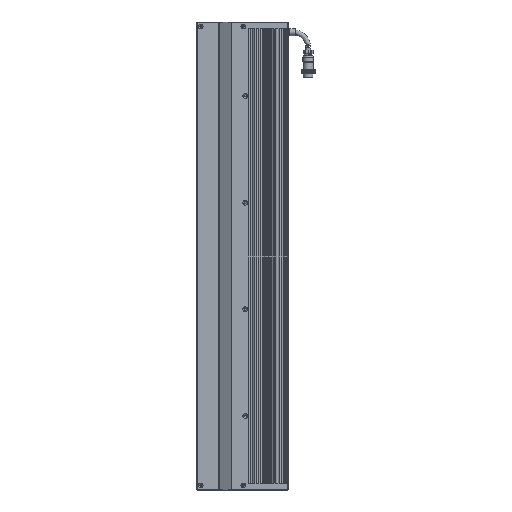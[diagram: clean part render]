
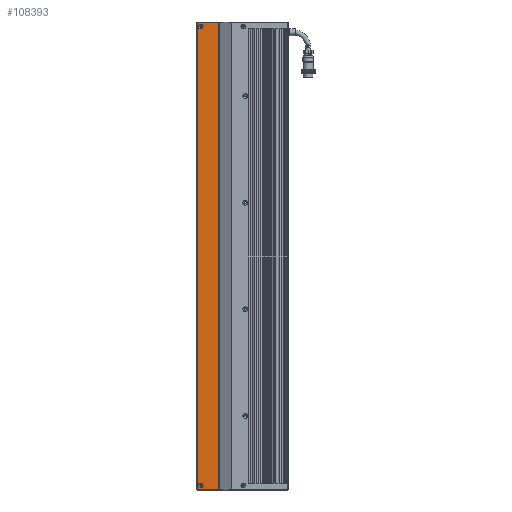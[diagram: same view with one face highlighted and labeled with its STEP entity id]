
A CAD part, left-side view. The second image highlights one B-rep face of the part: STEP entity #108393.
In plain terms, the highlighted planar face has unit normal (-1, 0, 0).
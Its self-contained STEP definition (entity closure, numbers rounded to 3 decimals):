
#5131 = EDGE_LOOP ( 'NONE', ( #10361 ) ) ;
#5657 = CARTESIAN_POINT ( 'NONE',  ( -15.462, 16.939, 727.5 ) ) ;
#6504 = DIRECTION ( 'NONE',  ( -1., 0., 0. ) ) ;
#7225 = CARTESIAN_POINT ( 'NONE',  ( -15.462, 13.789, 727.5 ) ) ;
#9946 = DIRECTION ( 'NONE',  ( 0., 0., -1. ) ) ;
#10361 = ORIENTED_EDGE ( 'NONE', *, *, #53114, .F. ) ;
#13353 = EDGE_LOOP ( 'NONE', ( #37569, #77928, #45549, #52624 ) ) ;
#14692 = VECTOR ( 'NONE', #25882, 1000. ) ;
#16178 = CIRCLE ( 'NONE', #119508, 3.15 ) ;
#16942 = EDGE_CURVE ( 'NONE', #93298, #97791, #60565, .T. ) ;
#17250 = AXIS2_PLACEMENT_3D ( 'NONE', #37304, #96392, #67426 ) ;
#24158 = CARTESIAN_POINT ( 'NONE',  ( -15.462, -7.561, 733. ) ) ;
#24848 = DIRECTION ( 'NONE',  ( 0., 0., -1. ) ) ;
#24903 = CARTESIAN_POINT ( 'NONE',  ( -15.462, -6.987, 120. ) ) ;
#25031 = VERTEX_POINT ( 'NONE', #29207 ) ;
#25384 = DIRECTION ( 'NONE',  ( 0., -1., 0. ) ) ;
#25882 = DIRECTION ( 'NONE',  ( 0., 1., 0. ) ) ;
#27376 = VERTEX_POINT ( 'NONE', #7225 ) ;
#28260 = PLANE ( 'NONE',  #125258 ) ;
#29207 = CARTESIAN_POINT ( 'NONE',  ( -15.462, 21.439, 733. ) ) ;
#31601 = CARTESIAN_POINT ( 'NONE',  ( -15.462, 21.439, 731.5 ) ) ;
#36279 = EDGE_CURVE ( 'NONE', #27376, #27376, #16178, .T. ) ;
#37304 = CARTESIAN_POINT ( 'NONE',  ( -15.462, 16.939, 125.5 ) ) ;
#37569 = ORIENTED_EDGE ( 'NONE', *, *, #47425, .F. ) ;
#37586 = DIRECTION ( 'NONE',  ( 1., 0., 0. ) ) ;
#41050 = LINE ( 'NONE', #31601, #92703 ) ;
#44335 = CARTESIAN_POINT ( 'NONE',  ( -15.462, -7.561, 731.5 ) ) ;
#44465 = CARTESIAN_POINT ( 'NONE',  ( -15.462, 16.939, 128.65 ) ) ;
#45549 = ORIENTED_EDGE ( 'NONE', *, *, #16942, .F. ) ;
#46533 = LINE ( 'NONE', #84060, #14692 ) ;
#47425 = EDGE_CURVE ( 'NONE', #82320, #25031, #41050, .T. ) ;
#52624 = ORIENTED_EDGE ( 'NONE', *, *, #106545, .F. ) ;
#53114 = EDGE_CURVE ( 'NONE', #80465, #80465, #80857, .T. ) ;
#60565 = LINE ( 'NONE', #108347, #95579 ) ;
#62725 = EDGE_LOOP ( 'NONE', ( #114698 ) ) ;
#67426 = DIRECTION ( 'NONE',  ( 0., 0., 1. ) ) ;
#73466 = DIRECTION ( 'NONE',  ( 0., -1., 0. ) ) ;
#73580 = EDGE_CURVE ( 'NONE', #97791, #82320, #46533, .T. ) ;
#77928 = ORIENTED_EDGE ( 'NONE', *, *, #73580, .F. ) ;
#77937 = LINE ( 'NONE', #24158, #117540 ) ;
#80465 = VERTEX_POINT ( 'NONE', #44465 ) ;
#80768 = CARTESIAN_POINT ( 'NONE',  ( -15.462, -6.987, 733. ) ) ;
#80857 = CIRCLE ( 'NONE', #17250, 3.15 ) ;
#82320 = VERTEX_POINT ( 'NONE', #90998 ) ;
#84060 = CARTESIAN_POINT ( 'NONE',  ( -15.462, -7.561, 120. ) ) ;
#86833 = FACE_BOUND ( 'NONE', #5131, .T. ) ;
#90998 = CARTESIAN_POINT ( 'NONE',  ( -15.462, 21.439, 120. ) ) ;
#92703 = VECTOR ( 'NONE', #101664, 1000. ) ;
#93298 = VERTEX_POINT ( 'NONE', #80768 ) ;
#95579 = VECTOR ( 'NONE', #9946, 1000. ) ;
#96392 = DIRECTION ( 'NONE',  ( -1., 0., 0. ) ) ;
#97791 = VERTEX_POINT ( 'NONE', #24903 ) ;
#101664 = DIRECTION ( 'NONE',  ( 0., 0., 1. ) ) ;
#102086 = FACE_BOUND ( 'NONE', #62725, .T. ) ;
#106545 = EDGE_CURVE ( 'NONE', #25031, #93298, #77937, .T. ) ;
#108216 = FACE_OUTER_BOUND ( 'NONE', #13353, .T. ) ;
#108347 = CARTESIAN_POINT ( 'NONE',  ( -15.462, -6.987, 731.5 ) ) ;
#108393 = ADVANCED_FACE ( 'NONE', ( #86833, #102086, #108216 ), #28260, .F. ) ;
#114698 = ORIENTED_EDGE ( 'NONE', *, *, #36279, .F. ) ;
#117540 = VECTOR ( 'NONE', #25384, 1000. ) ;
#119508 = AXIS2_PLACEMENT_3D ( 'NONE', #5657, #6504, #73466 ) ;
#125258 = AXIS2_PLACEMENT_3D ( 'NONE', #44335, #37586, #24848 ) ;
